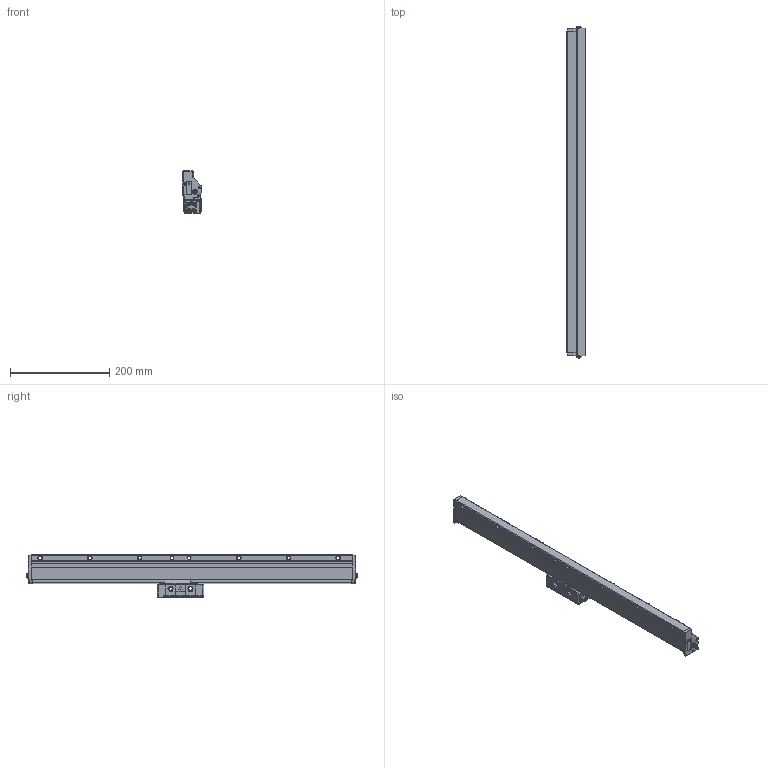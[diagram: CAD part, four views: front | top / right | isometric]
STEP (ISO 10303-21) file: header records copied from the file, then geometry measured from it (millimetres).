
FILE_DESCRIPTION(('Creo Elements/Direct Modeling STEP Export'),'2;1');
FILE_NAME('AT1153-540.stp','2018-10-12T11:03:46',(''),(''),'Creo Elements/Direct Modeling STEP processor for AP214 (Solid Model)','Creo Elements/Direct Modeling 18.1B 29-Sep-2012 (C) Parametric Technology GmbH','');
FILE_SCHEMA(('AUTOMOTIVE_DESIGN { 1 0 10303 214 1 1 1 1 }'));
Length unit declared in the file: millimetre
Products named in the file (3): Scale_540; DetectorHead; AT1153-540
Assembly tree (2 placements, depth 2):
  AT1153-540
    DetectorHead
    Scale_540
Bounding box: 37 x 668.44 x 85 mm (x, y, z)
Volume: 75076.9 mm3; surface area: 162261.5 mm2
Topology: 1 solids, 2 shells, 2649 faces, 6991 edges, 4524 vertices
Faces by surface type: plane 1624, cylinder 819, cone 104, torus 69, bspline 13, sphere 12, extrusion 8
Entity records: 84423 total; most frequent: CARTESIAN_POINT 15625, ORIENTED_EDGE 13998, DIRECTION 13248, EDGE_CURVE 6977, VECTOR 4696, LINE 4688, VERTEX_POINT 4524, AXIS2_PLACEMENT_3D 4276
